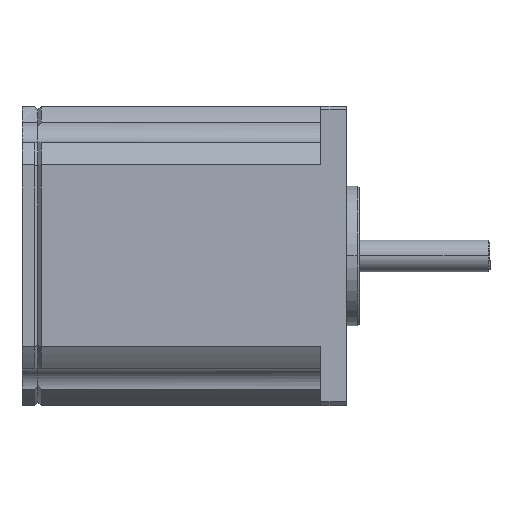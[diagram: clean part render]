
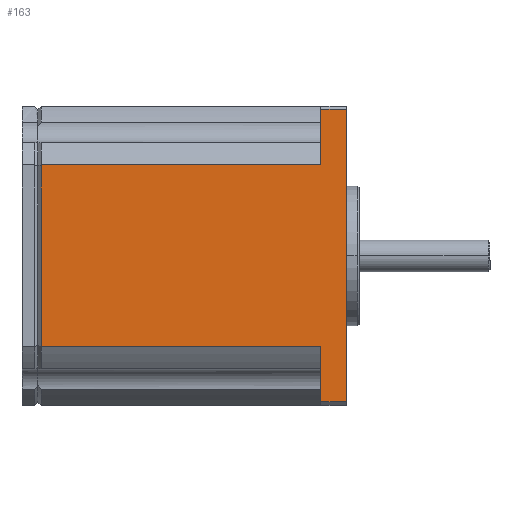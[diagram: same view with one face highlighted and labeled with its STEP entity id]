
A CAD part, top view. The second image highlights one B-rep face of the part: STEP entity #163.
In plain terms, the highlighted planar face has unit normal (0, 0, 1).
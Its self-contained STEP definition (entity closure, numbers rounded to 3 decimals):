
#163 = ADVANCED_FACE ( 'NONE', ( #420 ), #537, .F. ) ;
#353 = CARTESIAN_POINT ( 'NONE',  ( -4., 23., 23.5 ) ) ;
#420 = FACE_OUTER_BOUND ( 'NONE', #5836, .T. ) ;
#436 = ORIENTED_EDGE ( 'NONE', *, *, #21681, .T. ) ;
#537 = PLANE ( 'NONE',  #13172 ) ;
#851 = CARTESIAN_POINT ( 'NONE',  ( -4., 23.5, 23.5 ) ) ;
#2038 = LINE ( 'NONE', #15627, #16677 ) ;
#2078 = ORIENTED_EDGE ( 'NONE', *, *, #12015, .F. ) ;
#2747 = LINE ( 'NONE', #18105, #3621 ) ;
#3533 = EDGE_CURVE ( 'NONE', #19603, #4633, #23093, .T. ) ;
#3594 = ORIENTED_EDGE ( 'NONE', *, *, #3533, .T. ) ;
#3621 = VECTOR ( 'NONE', #15870, 1000. ) ;
#3769 = EDGE_CURVE ( 'NONE', #4633, #5340, #6587, .T. ) ;
#4633 = VERTEX_POINT ( 'NONE', #17615 ) ;
#5340 = VERTEX_POINT ( 'NONE', #19817 ) ;
#5387 = VECTOR ( 'NONE', #13845, 1000. ) ;
#5773 = CARTESIAN_POINT ( 'NONE',  ( -4., 14.283, 23.5 ) ) ;
#5833 = DIRECTION ( 'NONE',  ( 0., -1., 0. ) ) ;
#5836 = EDGE_LOOP ( 'NONE', ( #2078, #13275, #6718, #436, #3594, #18823, #9242, #21006 ) ) ;
#5867 = CARTESIAN_POINT ( 'NONE',  ( 78.56, 14.283, 23.5 ) ) ;
#5948 = CARTESIAN_POINT ( 'NONE',  ( -48.5, 23.5, 23.5 ) ) ;
#6226 = DIRECTION ( 'NONE',  ( 1., 0., 0. ) ) ;
#6499 = VECTOR ( 'NONE', #10171, 1000. ) ;
#6587 = LINE ( 'NONE', #21383, #6499 ) ;
#6694 = CARTESIAN_POINT ( 'NONE',  ( -4., -14.283, 23.5 ) ) ;
#6718 = ORIENTED_EDGE ( 'NONE', *, *, #15474, .F. ) ;
#6883 = VECTOR ( 'NONE', #10846, 1000. ) ;
#6957 = EDGE_CURVE ( 'NONE', #10262, #23785, #24366, .T. ) ;
#7252 = EDGE_CURVE ( 'NONE', #5340, #16764, #2038, .T. ) ;
#7407 = EDGE_CURVE ( 'NONE', #16764, #18173, #2747, .T. ) ;
#8609 = VECTOR ( 'NONE', #14432, 1000. ) ;
#9242 = ORIENTED_EDGE ( 'NONE', *, *, #7252, .T. ) ;
#10171 = DIRECTION ( 'NONE',  ( 0., 1., 0. ) ) ;
#10262 = VERTEX_POINT ( 'NONE', #10361 ) ;
#10361 = CARTESIAN_POINT ( 'NONE',  ( -48., 14.283, 23.5 ) ) ;
#10846 = DIRECTION ( 'NONE',  ( 1., 0., 0. ) ) ;
#12015 = EDGE_CURVE ( 'NONE', #10262, #18173, #23254, .T. ) ;
#13098 = VECTOR ( 'NONE', #20626, 1000. ) ;
#13172 = AXIS2_PLACEMENT_3D ( 'NONE', #5948, #22717, #5833 ) ;
#13275 = ORIENTED_EDGE ( 'NONE', *, *, #6957, .T. ) ;
#13845 = DIRECTION ( 'NONE',  ( 0., -1., 0. ) ) ;
#14432 = DIRECTION ( 'NONE',  ( -1., 0., 0. ) ) ;
#15131 = DIRECTION ( 'NONE',  ( -1., 0., 0. ) ) ;
#15450 = LINE ( 'NONE', #851, #5387 ) ;
#15474 = EDGE_CURVE ( 'NONE', #20783, #23785, #23784, .T. ) ;
#15627 = CARTESIAN_POINT ( 'NONE',  ( -48.5, 23., 23.5 ) ) ;
#15870 = DIRECTION ( 'NONE',  ( 0., -1., 0. ) ) ;
#16080 = CARTESIAN_POINT ( 'NONE',  ( -4., -23., 23.5 ) ) ;
#16677 = VECTOR ( 'NONE', #15131, 1000. ) ;
#16755 = CARTESIAN_POINT ( 'NONE',  ( -48., 23.5, 23.5 ) ) ;
#16764 = VERTEX_POINT ( 'NONE', #353 ) ;
#16891 = VECTOR ( 'NONE', #6226, 1000. ) ;
#17615 = CARTESIAN_POINT ( 'NONE',  ( 0., -23., 23.5 ) ) ;
#18105 = CARTESIAN_POINT ( 'NONE',  ( -4., 23.5, 23.5 ) ) ;
#18173 = VERTEX_POINT ( 'NONE', #5773 ) ;
#18823 = ORIENTED_EDGE ( 'NONE', *, *, #3769, .T. ) ;
#19603 = VERTEX_POINT ( 'NONE', #16080 ) ;
#19693 = CARTESIAN_POINT ( 'NONE',  ( 78.56, -14.283, 23.5 ) ) ;
#19817 = CARTESIAN_POINT ( 'NONE',  ( 0., 23., 23.5 ) ) ;
#20607 = CARTESIAN_POINT ( 'NONE',  ( -48., -14.283, 23.5 ) ) ;
#20626 = DIRECTION ( 'NONE',  ( 0., -1., 0. ) ) ;
#20783 = VERTEX_POINT ( 'NONE', #6694 ) ;
#21006 = ORIENTED_EDGE ( 'NONE', *, *, #7407, .T. ) ;
#21383 = CARTESIAN_POINT ( 'NONE',  ( 0., 23.5, 23.5 ) ) ;
#21681 = EDGE_CURVE ( 'NONE', #20783, #19603, #15450, .T. ) ;
#22717 = DIRECTION ( 'NONE',  ( 0., 0., -1. ) ) ;
#23093 = LINE ( 'NONE', #24199, #6883 ) ;
#23254 = LINE ( 'NONE', #5867, #16891 ) ;
#23784 = LINE ( 'NONE', #19693, #8609 ) ;
#23785 = VERTEX_POINT ( 'NONE', #20607 ) ;
#24199 = CARTESIAN_POINT ( 'NONE',  ( -48.5, -23., 23.5 ) ) ;
#24366 = LINE ( 'NONE', #16755, #13098 ) ;
